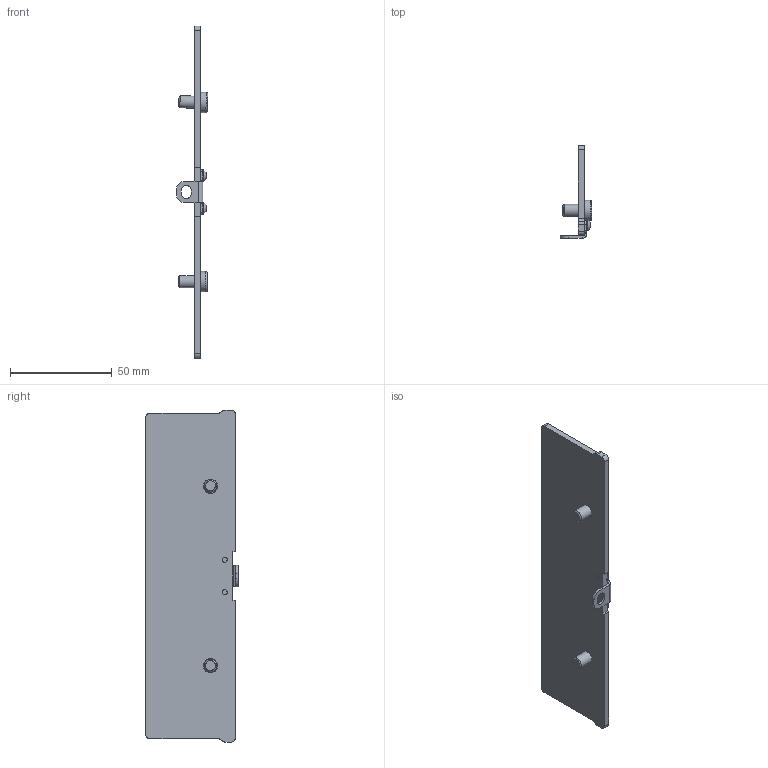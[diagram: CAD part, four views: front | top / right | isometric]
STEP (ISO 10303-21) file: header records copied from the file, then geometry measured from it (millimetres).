
FILE_DESCRIPTION (( 'STEP AP214' ), '1' );
FILE_NAME ('6921205044042.STEP', '2018-08-03T06:37:58', ( '' ), ( '' ), 'SwSTEP 2.0', 'SolidWorks 2016', '' );
FILE_SCHEMA (( 'AUTOMOTIVE_DESIGN' ));
Length unit declared in the file: millimetre
Products named in the file (5): 8006200610800_DIN 912 - M6 x 10 --- 4.5N; 6921205044000; 6921205044042; 8022503004820_ISO 7380 - M3 x 4 --- 6N; 6921185018000
Assembly tree (6 placements, depth 2):
  6921205044042
    6921205044000
    6921185018000
    8022503004820_ISO 7380 - M3 x 4 --- 6N  x2
    8006200610800_DIN 912 - M6 x 10 --- 4.5N  x2
Bounding box: 15.4 x 45.35 x 163 mm (x, y, z)
Volume: 22211.8 mm3; surface area: 17190.1 mm2
Topology: 6 solids, 6 shells, 180 faces, 426 edges, 270 vertices
Faces by surface type: plane 124, cylinder 38, cone 10, torus 6, sphere 2
Full cylindrical faces by diameter (mm): 2.5 x2, 3 x4, 3.2 x2, 5.7 x2, 6 x2, 7 x2, 10 x2, 11 x2
Entity records: 4093 total; most frequent: CARTESIAN_POINT 683, DIRECTION 672, ORIENTED_EDGE 612, EDGE_CURVE 306, AXIS2_PLACEMENT_3D 225, LINE 222, VECTOR 222, VERTEX_POINT 208
